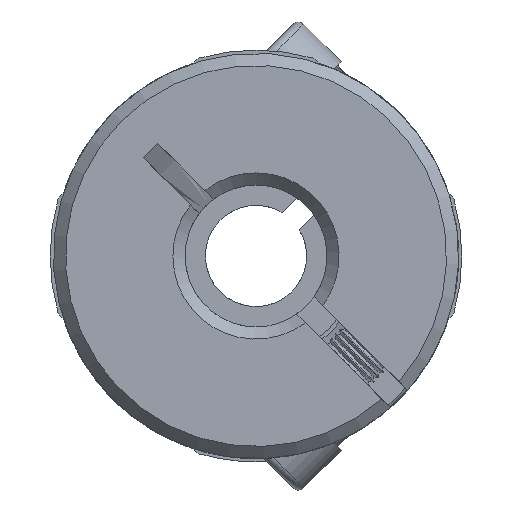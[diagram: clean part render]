
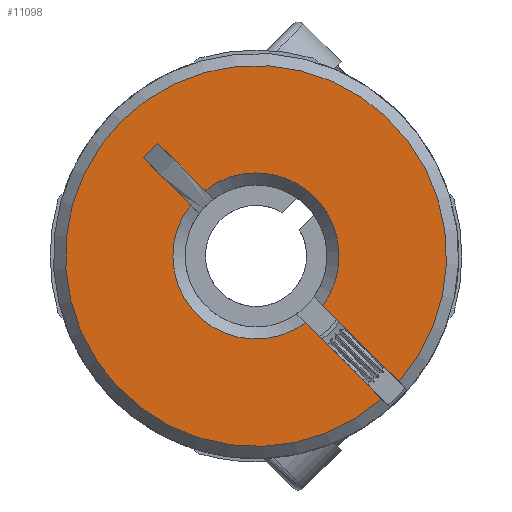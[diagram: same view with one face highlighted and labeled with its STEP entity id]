
A CAD part, front view. The second image highlights one B-rep face of the part: STEP entity #11098.
In plain terms, the highlighted planar face has unit normal (0, -1, 0).
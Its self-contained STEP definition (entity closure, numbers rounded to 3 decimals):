
#100 = VERTEX_POINT ( 'NONE', #1419 ) ;
#224 = CARTESIAN_POINT ( 'NONE',  ( 5.657, -12.6, -4.95 ) ) ;
#249 = VERTEX_POINT ( 'NONE', #11095 ) ;
#299 = VECTOR ( 'NONE', #4468, 1000. ) ;
#511 = CARTESIAN_POINT ( 'NONE',  ( 0., -12.6, 0. ) ) ;
#616 = CIRCLE ( 'NONE', #4362, 4.1 ) ;
#721 = FACE_OUTER_BOUND ( 'NONE', #1130, .T. ) ;
#827 = VERTEX_POINT ( 'NONE', #11375 ) ;
#948 = LINE ( 'NONE', #1559, #299 ) ;
#993 = VECTOR ( 'NONE', #12077, 1000. ) ;
#1130 = EDGE_LOOP ( 'NONE', ( #3561, #11311, #9286, #2841, #4739, #2498, #5435, #7933 ) ) ;
#1211 = CARTESIAN_POINT ( 'NONE',  ( 0., -12.6, 0. ) ) ;
#1419 = CARTESIAN_POINT ( 'NONE',  ( 2.444, -12.6, -3.292 ) ) ;
#1559 = CARTESIAN_POINT ( 'NONE',  ( 2.863, -12.6, -2.014 ) ) ;
#1634 = VERTEX_POINT ( 'NONE', #6864 ) ;
#2060 = CARTESIAN_POINT ( 'NONE',  ( 0., -12.6, 0. ) ) ;
#2498 = ORIENTED_EDGE ( 'NONE', *, *, #8683, .T. ) ;
#2610 = DIRECTION ( 'NONE',  ( 0.707, 0., -0.707 ) ) ;
#2674 = DIRECTION ( 'NONE',  ( 0.707, 0., -0.707 ) ) ;
#2841 = ORIENTED_EDGE ( 'NONE', *, *, #11967, .T. ) ;
#3496 = CARTESIAN_POINT ( 'NONE',  ( 7.058, -12.6, -6.209 ) ) ;
#3561 = ORIENTED_EDGE ( 'NONE', *, *, #4500, .T. ) ;
#3732 = CIRCLE ( 'NONE', #6650, 9.4 ) ;
#3842 = CARTESIAN_POINT ( 'NONE',  ( -2.524, -12.6, 3.231 ) ) ;
#3965 = CIRCLE ( 'NONE', #6122, 4.1 ) ;
#4275 = EDGE_CURVE ( 'NONE', #7704, #1634, #948, .T. ) ;
#4362 = AXIS2_PLACEMENT_3D ( 'NONE', #2060, #8994, #10090 ) ;
#4468 = DIRECTION ( 'NONE',  ( -0.707, 0., 0.707 ) ) ;
#4500 = EDGE_CURVE ( 'NONE', #6234, #4676, #7862, .T. ) ;
#4676 = VERTEX_POINT ( 'NONE', #3842 ) ;
#4739 = ORIENTED_EDGE ( 'NONE', *, *, #7389, .F. ) ;
#4766 = AXIS2_PLACEMENT_3D ( 'NONE', #11686, #5670, #2674 ) ;
#4785 = EDGE_CURVE ( 'NONE', #4676, #1634, #616, .T. ) ;
#4833 = VECTOR ( 'NONE', #10589, 1000. ) ;
#5035 = CARTESIAN_POINT ( 'NONE',  ( 2.014, -12.6, -2.863 ) ) ;
#5435 = ORIENTED_EDGE ( 'NONE', *, *, #10704, .F. ) ;
#5488 = VECTOR ( 'NONE', #8085, 1000. ) ;
#5670 = DIRECTION ( 'NONE',  ( 0., 1., 0. ) ) ;
#5678 = CARTESIAN_POINT ( 'NONE',  ( -4.842, -12.6, 5.549 ) ) ;
#5796 = LINE ( 'NONE', #5678, #4833 ) ;
#6122 = AXIS2_PLACEMENT_3D ( 'NONE', #1211, #8256, #12370 ) ;
#6234 = VERTEX_POINT ( 'NONE', #11725 ) ;
#6650 = AXIS2_PLACEMENT_3D ( 'NONE', #511, #12700, #2610 ) ;
#6864 = CARTESIAN_POINT ( 'NONE',  ( 3.292, -12.6, -2.444 ) ) ;
#6884 = EDGE_CURVE ( 'NONE', #6234, #249, #5796, .T. ) ;
#7146 = VERTEX_POINT ( 'NONE', #9644 ) ;
#7389 = EDGE_CURVE ( 'NONE', #100, #7146, #9020, .T. ) ;
#7704 = VERTEX_POINT ( 'NONE', #3496 ) ;
#7821 = LINE ( 'NONE', #9018, #5488 ) ;
#7862 = LINE ( 'NONE', #224, #13113 ) ;
#7933 = ORIENTED_EDGE ( 'NONE', *, *, #6884, .F. ) ;
#8085 = DIRECTION ( 'NONE',  ( 0.707, 0., -0.707 ) ) ;
#8207 = DIRECTION ( 'NONE',  ( 0.707, 0., -0.707 ) ) ;
#8256 = DIRECTION ( 'NONE',  ( 0., 1., 0. ) ) ;
#8683 = EDGE_CURVE ( 'NONE', #100, #827, #3965, .T. ) ;
#8994 = DIRECTION ( 'NONE',  ( 0., 1., 0. ) ) ;
#9018 = CARTESIAN_POINT ( 'NONE',  ( 4.95, -12.6, -5.657 ) ) ;
#9020 = LINE ( 'NONE', #5035, #993 ) ;
#9286 = ORIENTED_EDGE ( 'NONE', *, *, #4275, .F. ) ;
#9644 = CARTESIAN_POINT ( 'NONE',  ( 6.209, -12.6, -7.058 ) ) ;
#9744 = PLANE ( 'NONE',  #4766 ) ;
#10090 = DIRECTION ( 'NONE',  ( 0.707, 0., -0.707 ) ) ;
#10589 = DIRECTION ( 'NONE',  ( -0.707, 0., -0.707 ) ) ;
#10704 = EDGE_CURVE ( 'NONE', #249, #827, #7821, .T. ) ;
#11095 = CARTESIAN_POINT ( 'NONE',  ( -5.549, -12.6, 4.842 ) ) ;
#11098 = ADVANCED_FACE ( 'NONE', ( #721 ), #9744, .F. ) ;
#11311 = ORIENTED_EDGE ( 'NONE', *, *, #4785, .T. ) ;
#11375 = CARTESIAN_POINT ( 'NONE',  ( -3.231, -12.6, 2.524 ) ) ;
#11686 = CARTESIAN_POINT ( 'NONE',  ( 342.528, -12.6, 364.579 ) ) ;
#11725 = CARTESIAN_POINT ( 'NONE',  ( -4.842, -12.6, 5.549 ) ) ;
#11967 = EDGE_CURVE ( 'NONE', #7704, #7146, #3732, .T. ) ;
#12077 = DIRECTION ( 'NONE',  ( 0.707, 0., -0.707 ) ) ;
#12370 = DIRECTION ( 'NONE',  ( 0.707, 0., -0.707 ) ) ;
#12700 = DIRECTION ( 'NONE',  ( 0., -1., 0. ) ) ;
#13113 = VECTOR ( 'NONE', #8207, 1000. ) ;
